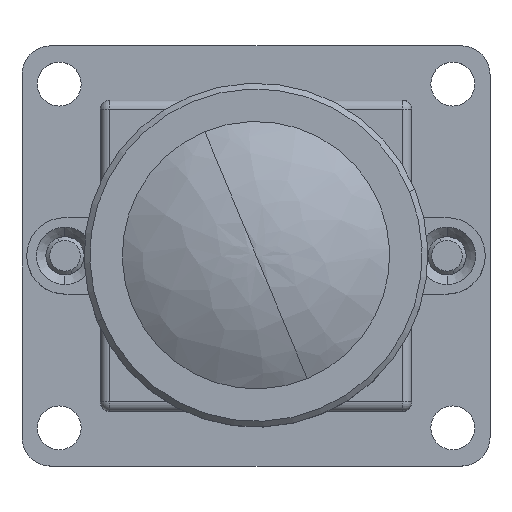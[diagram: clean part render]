
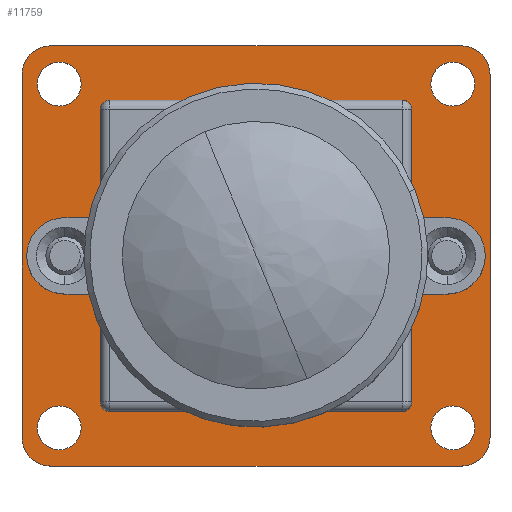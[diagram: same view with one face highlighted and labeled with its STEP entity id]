
A CAD part, top view. The second image highlights one B-rep face of the part: STEP entity #11759.
In plain terms, the highlighted planar face has unit normal (0, 0, 1).
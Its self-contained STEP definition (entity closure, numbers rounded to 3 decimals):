
#11248=CARTESIAN_POINT('',(-13.452,-7.322,
-3.996));
#11249=DIRECTION('',(0.,0.,1.));
#11250=DIRECTION('',(-1.,0.001,0.));
#11251=AXIS2_PLACEMENT_3D('',#11248,#11249,#11250);
#11253=DIRECTION('',(0.,-1.,0.));
#11254=VECTOR('',#11253,19.);
#11255=CARTESIAN_POINT('',(-14.951,11.679,
-3.996));
#11256=LINE('',#11255,#11254);
#11257=CARTESIAN_POINT('',(-13.452,11.68,
-3.996));
#11258=DIRECTION('',(0.,0.,1.));
#11259=DIRECTION('',(0.001,1.,0.));
#11260=AXIS2_PLACEMENT_3D('',#11257,#11258,#11259);
#11262=DIRECTION('',(-1.,0.,0.));
#11263=VECTOR('',#11262,21.5);
#11264=CARTESIAN_POINT('',(8.049,13.179,
-3.996));
#11265=LINE('',#11264,#11263);
#11266=CARTESIAN_POINT('',(8.05,11.68,
-3.996));
#11267=DIRECTION('',(0.,0.,1.));
#11268=DIRECTION('',(1.,-0.002,0.));
#11269=AXIS2_PLACEMENT_3D('',#11266,#11267,#11268);
#11271=DIRECTION('',(0.,1.,0.));
#11272=VECTOR('',#11271,18.998);
#11273=CARTESIAN_POINT('',(9.549,-7.321,
-3.996));
#11274=LINE('',#11273,#11272);
#11275=CARTESIAN_POINT('',(8.05,-7.322,
-3.996));
#11276=DIRECTION('',(0.,0.,1.));
#11277=DIRECTION('',(-0.001,-1.,0.));
#11278=AXIS2_PLACEMENT_3D('',#11275,#11276,#11277);
#11280=DIRECTION('',(1.,0.,0.));
#11281=VECTOR('',#11280,21.5);
#11282=CARTESIAN_POINT('',(-13.451,-8.821,
-3.996));
#11283=LINE('',#11282,#11281);
#11284=CARTESIAN_POINT('',(7.599,11.179,
-3.996));
#11285=DIRECTION('',(0.,0.,-1.));
#11286=DIRECTION('',(-1.,0.,0.));
#11287=AXIS2_PLACEMENT_3D('',#11284,#11285,#11286);
#11289=CARTESIAN_POINT('',(7.599,11.179,
-3.996));
#11290=DIRECTION('',(0.,0.,-1.));
#11291=DIRECTION('',(1.,0.,0.));
#11292=AXIS2_PLACEMENT_3D('',#11289,#11290,#11291);
#11294=CARTESIAN_POINT('',(7.299,2.179,
-3.996));
#11295=DIRECTION('',(0.,0.,1.));
#11296=DIRECTION('',(1.,0.,0.));
#11297=AXIS2_PLACEMENT_3D('',#11294,#11295,#11296);
#11299=CARTESIAN_POINT('',(7.299,2.179,
-3.996));
#11300=DIRECTION('',(0.,0.,1.));
#11301=DIRECTION('',(-1.,0.,0.));
#11302=AXIS2_PLACEMENT_3D('',#11299,#11300,#11301);
#11304=CARTESIAN_POINT('',(7.599,-6.821,
-3.996));
#11305=DIRECTION('',(0.,0.,-1.));
#11306=DIRECTION('',(-1.,0.,0.));
#11307=AXIS2_PLACEMENT_3D('',#11304,#11305,#11306);
#11309=CARTESIAN_POINT('',(7.599,-6.821,
-3.996));
#11310=DIRECTION('',(0.,0.,-1.));
#11311=DIRECTION('',(1.,0.,0.));
#11312=AXIS2_PLACEMENT_3D('',#11309,#11310,#11311);
#11314=CARTESIAN_POINT('',(-12.701,2.179,
-3.996));
#11315=DIRECTION('',(0.,0.,1.));
#11316=DIRECTION('',(1.,0.,0.));
#11317=AXIS2_PLACEMENT_3D('',#11314,#11315,#11316);
#11319=CARTESIAN_POINT('',(-12.701,2.179,
-3.996));
#11320=DIRECTION('',(0.,0.,1.));
#11321=DIRECTION('',(-1.,0.,0.));
#11322=AXIS2_PLACEMENT_3D('',#11319,#11320,#11321);
#11324=CARTESIAN_POINT('',(-13.001,11.179,
-3.996));
#11325=DIRECTION('',(0.,0.,-1.));
#11326=DIRECTION('',(-1.,0.,0.));
#11327=AXIS2_PLACEMENT_3D('',#11324,#11325,#11326);
#11329=CARTESIAN_POINT('',(-13.001,11.179,
-3.996));
#11330=DIRECTION('',(0.,0.,-1.));
#11331=DIRECTION('',(1.,0.,0.));
#11332=AXIS2_PLACEMENT_3D('',#11329,#11330,#11331);
#11334=CARTESIAN_POINT('',(-13.001,-6.821,
-3.996));
#11335=DIRECTION('',(0.,0.,-1.));
#11336=DIRECTION('',(-1.,0.,0.));
#11337=AXIS2_PLACEMENT_3D('',#11334,#11335,#11336);
#11339=CARTESIAN_POINT('',(-13.001,-6.821,
-3.996));
#11340=DIRECTION('',(0.,0.,-1.));
#11341=DIRECTION('',(1.,0.,0.));
#11342=AXIS2_PLACEMENT_3D('',#11339,#11340,#11341);
#11376=CARTESIAN_POINT('',(-13.451,-8.821,
-3.996));
#11377=CARTESIAN_POINT('',(8.049,-8.821,
-3.996));
#11378=VERTEX_POINT('',#11376);
#11379=VERTEX_POINT('',#11377);
#11384=CARTESIAN_POINT('',(-14.151,11.179,
-3.996));
#11385=CARTESIAN_POINT('',(-11.851,11.179,
-3.996));
#11386=VERTEX_POINT('',#11384);
#11387=VERTEX_POINT('',#11385);
#11390=CARTESIAN_POINT('',(6.449,11.179,
-3.996));
#11391=VERTEX_POINT('',#11390);
#11393=CARTESIAN_POINT('',(8.049,13.179,
-3.996));
#11395=VERTEX_POINT('',#11393);
#11396=CARTESIAN_POINT('',(8.749,11.179,
-3.996));
#11397=VERTEX_POINT('',#11396);
#11398=CARTESIAN_POINT('',(-14.951,-7.321,
-3.996));
#11399=VERTEX_POINT('',#11398);
#11401=CARTESIAN_POINT('',(8.749,-6.821,
-3.996));
#11403=VERTEX_POINT('',#11401);
#11405=CARTESIAN_POINT('',(-14.951,11.679,
-3.996));
#11407=VERTEX_POINT('',#11405);
#11412=CARTESIAN_POINT('',(-14.151,-6.821,
-3.996));
#11413=CARTESIAN_POINT('',(-11.851,-6.821,
-3.996));
#11414=VERTEX_POINT('',#11412);
#11415=VERTEX_POINT('',#11413);
#11416=CARTESIAN_POINT('',(9.549,11.677,
-3.996));
#11418=VERTEX_POINT('',#11416);
#11428=CARTESIAN_POINT('',(9.549,-7.321,
-3.996));
#11429=VERTEX_POINT('',#11428);
#11434=CARTESIAN_POINT('',(8.399,2.179,
-3.996));
#11435=CARTESIAN_POINT('',(6.199,2.179,
-3.996));
#11436=VERTEX_POINT('',#11434);
#11437=VERTEX_POINT('',#11435);
#11438=CARTESIAN_POINT('',(-13.801,2.179,
-3.996));
#11439=CARTESIAN_POINT('',(-11.601,2.179,
-3.996));
#11440=VERTEX_POINT('',#11438);
#11441=VERTEX_POINT('',#11439);
#11447=CARTESIAN_POINT('',(6.449,-6.821,
-3.996));
#11449=VERTEX_POINT('',#11447);
#11450=CARTESIAN_POINT('',(-13.451,13.179,
-3.996));
#11451=VERTEX_POINT('',#11450);
#11709=CARTESIAN_POINT('',(-2.701,2.179,
-3.996));
#11710=DIRECTION('',(0.,0.,-1.));
#11711=DIRECTION('',(0.,-1.,0.));
#11712=AXIS2_PLACEMENT_3D('',#11709,#11710,#11711);
#11713=PLANE('',#11712);
#11714=ORIENTED_EDGE('',*,*,#11573,.F.);
#11715=ORIENTED_EDGE('',*,*,#11551,.F.);
#11716=ORIENTED_EDGE('',*,*,#11529,.F.);
#11717=ORIENTED_EDGE('',*,*,#11507,.F.);
#11718=ORIENTED_EDGE('',*,*,#11485,.F.);
#11719=ORIENTED_EDGE('',*,*,#11463,.F.);
#11720=ORIENTED_EDGE('',*,*,#11616,.F.);
#11721=ORIENTED_EDGE('',*,*,#11595,.F.);
#11722=EDGE_LOOP('',(#11714,#11715,#11716,#11717,#11718,#11719,#11720,#11721));
#11723=FACE_OUTER_BOUND('',#11722,.F.);
#11724=ORIENTED_EDGE('',*,*,#11692,.F.);
#11726=ORIENTED_EDGE('',*,*,#11725,.F.);
#11727=EDGE_LOOP('',(#11724,#11726));
#11728=FACE_BOUND('',#11727,.F.);
#11730=ORIENTED_EDGE('',*,*,#11729,.T.);
#11732=ORIENTED_EDGE('',*,*,#11731,.T.);
#11733=EDGE_LOOP('',(#11730,#11732));
#11734=FACE_BOUND('',#11733,.F.);
#11736=ORIENTED_EDGE('',*,*,#11735,.F.);
#11738=ORIENTED_EDGE('',*,*,#11737,.F.);
#11739=EDGE_LOOP('',(#11736,#11738));
#11740=FACE_BOUND('',#11739,.F.);
#11742=ORIENTED_EDGE('',*,*,#11741,.T.);
#11744=ORIENTED_EDGE('',*,*,#11743,.T.);
#11745=EDGE_LOOP('',(#11742,#11744));
#11746=FACE_BOUND('',#11745,.F.);
#11748=ORIENTED_EDGE('',*,*,#11747,.F.);
#11750=ORIENTED_EDGE('',*,*,#11749,.F.);
#11751=EDGE_LOOP('',(#11748,#11750));
#11752=FACE_BOUND('',#11751,.F.);
#11754=ORIENTED_EDGE('',*,*,#11753,.F.);
#11756=ORIENTED_EDGE('',*,*,#11755,.F.);
#11757=EDGE_LOOP('',(#11754,#11756));
#11758=FACE_BOUND('',#11757,.F.);
#11252=CIRCLE('',#11251,1.499);
#11261=CIRCLE('',#11260,1.499);
#11270=CIRCLE('',#11269,1.499);
#11279=CIRCLE('',#11278,1.499);
#11288=CIRCLE('',#11287,1.15);
#11293=CIRCLE('',#11292,1.15);
#11298=CIRCLE('',#11297,1.1);
#11303=CIRCLE('',#11302,1.1);
#11308=CIRCLE('',#11307,1.15);
#11313=CIRCLE('',#11312,1.15);
#11318=CIRCLE('',#11317,1.1);
#11323=CIRCLE('',#11322,1.1);
#11328=CIRCLE('',#11327,1.15);
#11333=CIRCLE('',#11332,1.15);
#11338=CIRCLE('',#11337,1.15);
#11343=CIRCLE('',#11342,1.15);
#11463=EDGE_CURVE('',#11429,#11418,#11274,.T.);
#11485=EDGE_CURVE('',#11418,#11395,#11270,.T.);
#11507=EDGE_CURVE('',#11395,#11451,#11265,.T.);
#11529=EDGE_CURVE('',#11451,#11407,#11261,.T.);
#11551=EDGE_CURVE('',#11407,#11399,#11256,.T.);
#11573=EDGE_CURVE('',#11399,#11378,#11252,.T.);
#11595=EDGE_CURVE('',#11378,#11379,#11283,.T.);
#11616=EDGE_CURVE('',#11379,#11429,#11279,.T.);
#11692=EDGE_CURVE('',#11391,#11397,#11288,.T.);
#11725=EDGE_CURVE('',#11397,#11391,#11293,.T.);
#11729=EDGE_CURVE('',#11436,#11437,#11298,.T.);
#11731=EDGE_CURVE('',#11437,#11436,#11303,.T.);
#11735=EDGE_CURVE('',#11449,#11403,#11308,.T.);
#11737=EDGE_CURVE('',#11403,#11449,#11313,.T.);
#11741=EDGE_CURVE('',#11441,#11440,#11318,.T.);
#11743=EDGE_CURVE('',#11440,#11441,#11323,.T.);
#11747=EDGE_CURVE('',#11386,#11387,#11328,.T.);
#11749=EDGE_CURVE('',#11387,#11386,#11333,.T.);
#11753=EDGE_CURVE('',#11414,#11415,#11338,.T.);
#11755=EDGE_CURVE('',#11415,#11414,#11343,.T.);
#11759=ADVANCED_FACE('',(#11723,#11728,#11734,#11740,#11746,#11752,#11758),
#11713,.F.);
